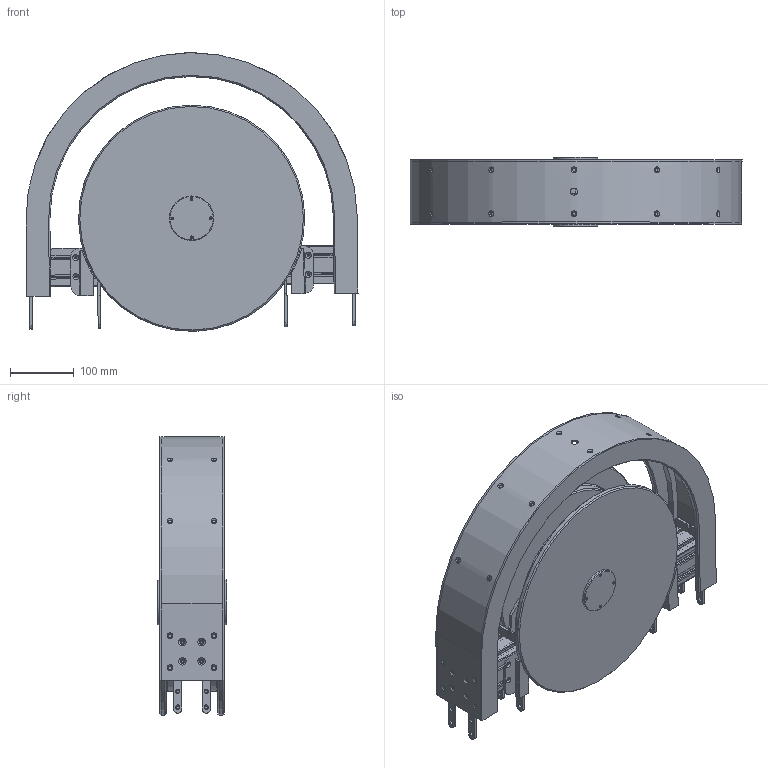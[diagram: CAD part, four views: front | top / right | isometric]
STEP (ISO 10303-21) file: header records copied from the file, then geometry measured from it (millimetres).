
FILE_DESCRIPTION (( 'STEP AP203' ), '1' );
FILE_NAME ('2000.450.518.STEP', '2018-03-12T15:44:53', ( '' ), ( '' ), 'SwSTEP 2.0', 'SolidWorks 2016', '' );
FILE_SCHEMA (( 'CONFIG_CONTROL_DESIGN' ));
Length unit declared in the file: millimetre
Products named in the file (14): 2000.325.401; 2000.450.004_Default<A macchina>; 2000.450.502; 2000.325.513-3; radial ball bearing_68_skf_SKF - 16005 - 14,DE,NC,14_68; 2000.325.501-2; 2000.325.402; 2000.450.410; 2000.450.420; 2000.450.501; 2000.325.514; 2000.450.503; 2000.325.502-4; 2000.450.518
Assembly tree (27 placements, depth 2):
  2000.450.518
    2000.325.501-2
    2000.325.502-4
    2000.325.513-3  x2
    2000.325.402  x2
    2000.325.514  x2
    2000.325.401  x4
    radial ball bearing_68_skf_SKF - 16005 - 14,DE,NC,14_68  x4
    2000.450.004_Default<A macchina>  x2
    2000.450.501  x2
    2000.450.502  x2
    2000.450.503  x2
    2000.450.410
    2000.450.420  x2
Bounding box: 521.2 x 109 x 437.49 mm (x, y, z)
Volume: 5676003.6 mm3; surface area: 1333802.4 mm2
Topology: 27 solids, 27 shells, 1621 faces, 5069 edges, 3298 vertices
Faces by surface type: cylinder 562, plane 555, torus 232, cone 118, sphere 112, bspline 42
Entity records: 35214 total; most frequent: CARTESIAN_POINT 12887, ORIENTED_EDGE 4354, DIRECTION 4231, EDGE_CURVE 2177, AXIS2_PLACEMENT_3D 1602, VERTEX_POINT 1419, VECTOR 1027, LINE 1027
